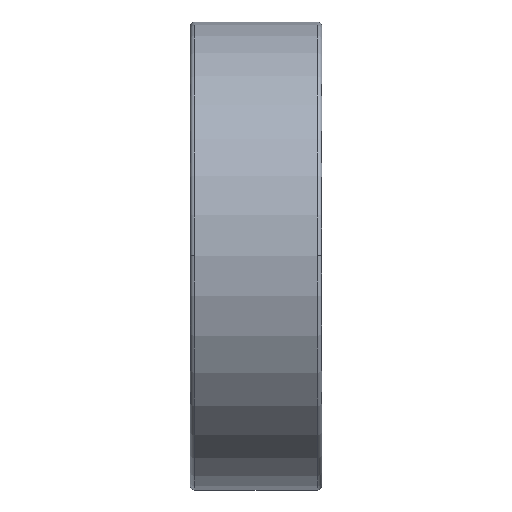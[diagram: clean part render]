
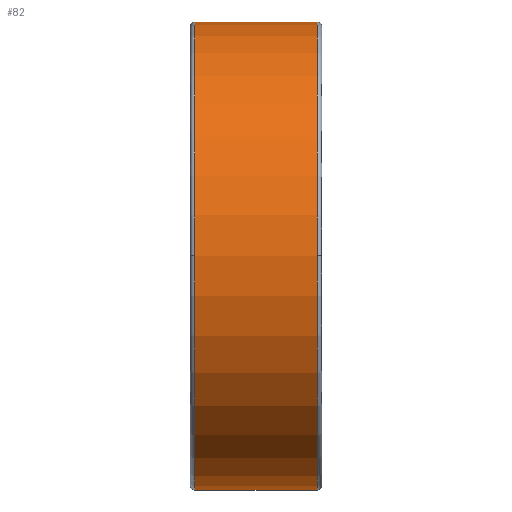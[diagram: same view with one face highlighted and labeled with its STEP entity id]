
A CAD part, top view. The second image highlights one B-rep face of the part: STEP entity #82.
In plain terms, the highlighted cylindrical face has radius 16 mm (diameter 32 mm), a partial arc.
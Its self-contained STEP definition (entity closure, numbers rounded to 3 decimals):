
#82=ADVANCED_FACE('',(#183),#184,.T.);
#183=FACE_OUTER_BOUND('',#391,.T.);
#184=CYLINDRICAL_SURFACE('',#392,16.0);
#391=EDGE_LOOP('',(#623,#624,#625,#626,#627,#628));
#392=AXIS2_PLACEMENT_3D('',#629,#630,#631);
#623=ORIENTED_EDGE('',*,*,#1333,.F.);
#624=ORIENTED_EDGE('',*,*,#1334,.T.);
#625=ORIENTED_EDGE('',*,*,#1335,.T.);
#626=ORIENTED_EDGE('',*,*,#1336,.F.);
#627=ORIENTED_EDGE('',*,*,#1337,.F.);
#628=ORIENTED_EDGE('',*,*,#1329,.F.);
#629=CARTESIAN_POINT('',(4.5,0.0,0.0));
#630=DIRECTION('',(1.0,0.0,0.0));
#631=DIRECTION('',(0.0,1.0,0.0));
#1329=EDGE_CURVE('',#1558,#1560,#1561,.T.);
#1333=EDGE_CURVE('',#1567,#1558,#1568,.T.);
#1334=EDGE_CURVE('',#1567,#1569,#1570,.T.);
#1335=EDGE_CURVE('',#1569,#1571,#1572,.T.);
#1336=EDGE_CURVE('',#1573,#1571,#1574,.T.);
#1337=EDGE_CURVE('',#1560,#1573,#1575,.T.);
#1558=VERTEX_POINT('',#1916);
#1560=VERTEX_POINT('',#1918);
#1561=CIRCLE('',#1919,16.0);
#1567=VERTEX_POINT('',#1925);
#1568=LINE('',#1926,#1927);
#1569=VERTEX_POINT('',#1928);
#1570=CIRCLE('',#1929,16.0);
#1571=VERTEX_POINT('',#1930);
#1572=CIRCLE('',#1931,16.0);
#1573=VERTEX_POINT('',#1932);
#1574=LINE('',#1933,#1934);
#1575=CIRCLE('',#1935,16.0);
#1916=CARTESIAN_POINT('',(8.7,16.0,0.0));
#1918=CARTESIAN_POINT('',(8.7,0.,16.0));
#1919=AXIS2_PLACEMENT_3D('',#2335,#2336,#2337);
#1925=CARTESIAN_POINT('',(0.3,16.0,0.0));
#1926=CARTESIAN_POINT('',(4.5,16.0,0.));
#1927=VECTOR('',#2347,1.0);
#1928=CARTESIAN_POINT('',(0.3,0.,16.0));
#1929=AXIS2_PLACEMENT_3D('',#2348,#2349,#2350);
#1930=CARTESIAN_POINT('',(0.3,-16.0,0.));
#1931=AXIS2_PLACEMENT_3D('',#2351,#2352,#2353);
#1932=CARTESIAN_POINT('',(8.7,-16.0,0.));
#1933=CARTESIAN_POINT('',(4.5,-16.0,0.));
#1934=VECTOR('',#2354,1.0);
#1935=AXIS2_PLACEMENT_3D('',#2355,#2356,#2357);
#2335=CARTESIAN_POINT('',(8.7,0.0,0.0));
#2336=DIRECTION('',(1.0,0.0,0.0));
#2337=DIRECTION('',(0.0,1.0,0.0));
#2347=DIRECTION('',(1.0,0.0,0.0));
#2348=CARTESIAN_POINT('',(0.3,0.0,0.0));
#2349=DIRECTION('',(1.0,0.0,0.0));
#2350=DIRECTION('',(0.0,1.0,0.0));
#2351=CARTESIAN_POINT('',(0.3,0.0,0.0));
#2352=DIRECTION('',(1.0,0.0,0.0));
#2353=DIRECTION('',(0.0,1.0,0.0));
#2354=DIRECTION('',(-1.0,-0.0,-0.0));
#2355=CARTESIAN_POINT('',(8.7,0.0,0.0));
#2356=DIRECTION('',(1.0,0.0,0.0));
#2357=DIRECTION('',(0.0,1.0,0.0));
